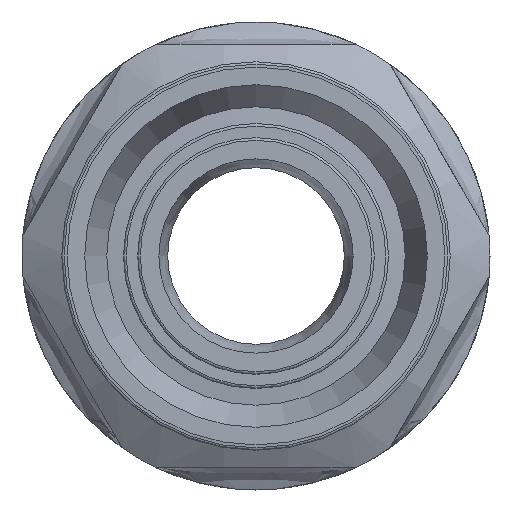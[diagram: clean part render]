
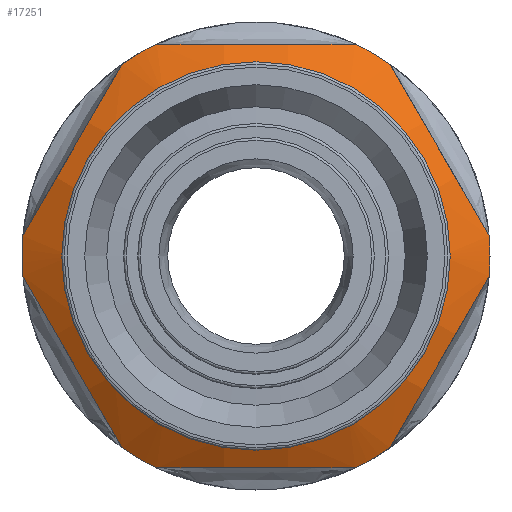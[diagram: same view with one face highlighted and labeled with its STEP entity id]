
A CAD part, left-side view. The second image highlights one B-rep face of the part: STEP entity #17251.
In plain terms, the highlighted conical face has half-angle 59.826 degrees and reference radius 10.5 mm.
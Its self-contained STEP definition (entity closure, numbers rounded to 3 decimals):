
#38=(
BOUNDED_CURVE()
B_SPLINE_CURVE(2,(#24801,#24802,#24803),.UNSPECIFIED.,.F.,.F.)
B_SPLINE_CURVE_WITH_KNOTS((3,3),(0.,1.133),.UNSPECIFIED.)
CURVE()
GEOMETRIC_REPRESENTATION_ITEM()
RATIONAL_B_SPLINE_CURVE((1.,1.104,1.))
REPRESENTATION_ITEM('')
);
#39=(
BOUNDED_CURVE()
B_SPLINE_CURVE(2,(#26408,#26409,#26410),.UNSPECIFIED.,.F.,.F.)
B_SPLINE_CURVE_WITH_KNOTS((3,3),(0.,1.133),.UNSPECIFIED.)
CURVE()
GEOMETRIC_REPRESENTATION_ITEM()
RATIONAL_B_SPLINE_CURVE((1.,1.104,1.))
REPRESENTATION_ITEM('')
);
#40=(
BOUNDED_CURVE()
B_SPLINE_CURVE(2,(#26678,#26679,#26680),.UNSPECIFIED.,.F.,.F.)
B_SPLINE_CURVE_WITH_KNOTS((3,3),(0.,1.133),.UNSPECIFIED.)
CURVE()
GEOMETRIC_REPRESENTATION_ITEM()
RATIONAL_B_SPLINE_CURVE((1.,1.104,1.))
REPRESENTATION_ITEM('')
);
#41=(
BOUNDED_CURVE()
B_SPLINE_CURVE(2,(#26823,#26824,#26825),.UNSPECIFIED.,.F.,.F.)
B_SPLINE_CURVE_WITH_KNOTS((3,3),(0.,1.133),.UNSPECIFIED.)
CURVE()
GEOMETRIC_REPRESENTATION_ITEM()
RATIONAL_B_SPLINE_CURVE((1.,1.104,1.))
REPRESENTATION_ITEM('')
);
#42=(
BOUNDED_CURVE()
B_SPLINE_CURVE(2,(#26968,#26969,#26970),.UNSPECIFIED.,.F.,.F.)
B_SPLINE_CURVE_WITH_KNOTS((3,3),(0.,1.133),.UNSPECIFIED.)
CURVE()
GEOMETRIC_REPRESENTATION_ITEM()
RATIONAL_B_SPLINE_CURVE((1.,1.104,1.))
REPRESENTATION_ITEM('')
);
#43=(
BOUNDED_CURVE()
B_SPLINE_CURVE(2,(#27113,#27114,#27115),.UNSPECIFIED.,.F.,.F.)
B_SPLINE_CURVE_WITH_KNOTS((3,3),(0.,1.133),.UNSPECIFIED.)
CURVE()
GEOMETRIC_REPRESENTATION_ITEM()
RATIONAL_B_SPLINE_CURVE((1.,1.104,1.))
REPRESENTATION_ITEM('')
);
#993=CIRCLE('',#18191,13.25);
#994=CIRCLE('',#18192,13.25);
#995=CIRCLE('',#18193,7.75);
#996=CIRCLE('',#18194,7.75);
#997=CIRCLE('',#18195,13.25);
#998=CIRCLE('',#18196,13.25);
#999=CIRCLE('',#18197,13.25);
#1000=CIRCLE('',#18198,13.25);
#1001=CIRCLE('',#18199,13.25);
#1366=CONICAL_SURFACE('',#18190,10.5,1.044);
#1684=FACE_OUTER_BOUND('',#2679,.T.);
#2679=EDGE_LOOP('',(#13174,#13175,#13176,#13177,#13178,#13179,#13180,#13181,
#13182,#13183,#13184,#13185,#13186,#13187,#13188,#13189,#13190));
#4910=LINE('',#27122,#6341);
#6341=VECTOR('',#20080,10.5);
#7360=VERTEX_POINT('',#24798);
#7361=VERTEX_POINT('',#24800);
#7633=VERTEX_POINT('',#26405);
#7634=VERTEX_POINT('',#26407);
#7641=VERTEX_POINT('',#26675);
#7642=VERTEX_POINT('',#26677);
#7647=VERTEX_POINT('',#26820);
#7648=VERTEX_POINT('',#26822);
#7653=VERTEX_POINT('',#26965);
#7654=VERTEX_POINT('',#26967);
#7659=VERTEX_POINT('',#27110);
#7660=VERTEX_POINT('',#27112);
#7661=VERTEX_POINT('',#27119);
#7662=VERTEX_POINT('',#27121);
#7663=VERTEX_POINT('',#27123);
#9279=EDGE_CURVE('',#7361,#7360,#38,.T.);
#9686=EDGE_CURVE('',#7634,#7633,#39,.T.);
#9696=EDGE_CURVE('',#7642,#7641,#40,.T.);
#9703=EDGE_CURVE('',#7648,#7647,#41,.T.);
#9710=EDGE_CURVE('',#7654,#7653,#42,.T.);
#9717=EDGE_CURVE('',#7660,#7659,#43,.T.);
#9719=EDGE_CURVE('',#7642,#7647,#993,.T.);
#9720=EDGE_CURVE('',#7661,#7641,#994,.T.);
#9721=EDGE_CURVE('',#7661,#7662,#4910,.T.);
#9722=EDGE_CURVE('',#7662,#7663,#995,.T.);
#9723=EDGE_CURVE('',#7663,#7662,#996,.T.);
#9724=EDGE_CURVE('',#7361,#7661,#997,.T.);
#9725=EDGE_CURVE('',#7634,#7360,#998,.T.);
#9726=EDGE_CURVE('',#7660,#7633,#999,.T.);
#9727=EDGE_CURVE('',#7654,#7659,#1000,.T.);
#9728=EDGE_CURVE('',#7648,#7653,#1001,.T.);
#13174=ORIENTED_EDGE('',*,*,#9703,.T.);
#13175=ORIENTED_EDGE('',*,*,#9719,.F.);
#13176=ORIENTED_EDGE('',*,*,#9696,.T.);
#13177=ORIENTED_EDGE('',*,*,#9720,.F.);
#13178=ORIENTED_EDGE('',*,*,#9721,.T.);
#13179=ORIENTED_EDGE('',*,*,#9722,.T.);
#13180=ORIENTED_EDGE('',*,*,#9723,.T.);
#13181=ORIENTED_EDGE('',*,*,#9721,.F.);
#13182=ORIENTED_EDGE('',*,*,#9724,.F.);
#13183=ORIENTED_EDGE('',*,*,#9279,.T.);
#13184=ORIENTED_EDGE('',*,*,#9725,.F.);
#13185=ORIENTED_EDGE('',*,*,#9686,.T.);
#13186=ORIENTED_EDGE('',*,*,#9726,.F.);
#13187=ORIENTED_EDGE('',*,*,#9717,.T.);
#13188=ORIENTED_EDGE('',*,*,#9727,.F.);
#13189=ORIENTED_EDGE('',*,*,#9710,.T.);
#13190=ORIENTED_EDGE('',*,*,#9728,.F.);
#17251=ADVANCED_FACE('',(#1684),#1366,.T.);
#18190=AXIS2_PLACEMENT_3D('',#27117,#20074,#20075);
#18191=AXIS2_PLACEMENT_3D('',#27118,#20076,#20077);
#18192=AXIS2_PLACEMENT_3D('',#27120,#20078,#20079);
#18193=AXIS2_PLACEMENT_3D('',#27124,#20081,#20082);
#18194=AXIS2_PLACEMENT_3D('',#27125,#20083,#20084);
#18195=AXIS2_PLACEMENT_3D('',#27126,#20085,#20086);
#18196=AXIS2_PLACEMENT_3D('',#27127,#20087,#20088);
#18197=AXIS2_PLACEMENT_3D('',#27128,#20089,#20090);
#18198=AXIS2_PLACEMENT_3D('',#27129,#20091,#20092);
#18199=AXIS2_PLACEMENT_3D('',#27130,#20093,#20094);
#20074=DIRECTION('center_axis',(1.,0.,0.));
#20075=DIRECTION('ref_axis',(0.,1.,0.));
#20076=DIRECTION('center_axis',(1.,0.,0.));
#20077=DIRECTION('ref_axis',(0.,0.,-1.));
#20078=DIRECTION('center_axis',(1.,0.,0.));
#20079=DIRECTION('ref_axis',(0.,0.,-1.));
#20080=DIRECTION('',(-0.503,0.865,0.));
#20081=DIRECTION('center_axis',(1.,0.,0.));
#20082=DIRECTION('ref_axis',(0.,0.,-1.));
#20083=DIRECTION('center_axis',(1.,0.,0.));
#20084=DIRECTION('ref_axis',(0.,0.,-1.));
#20085=DIRECTION('center_axis',(1.,0.,0.));
#20086=DIRECTION('ref_axis',(0.,0.,-1.));
#20087=DIRECTION('center_axis',(1.,0.,0.));
#20088=DIRECTION('ref_axis',(0.,0.,-1.));
#20089=DIRECTION('center_axis',(1.,0.,0.));
#20090=DIRECTION('ref_axis',(0.,0.,-1.));
#20091=DIRECTION('center_axis',(1.,0.,0.));
#20092=DIRECTION('ref_axis',(0.,0.,-1.));
#20093=DIRECTION('center_axis',(1.,0.,0.));
#20094=DIRECTION('ref_axis',(0.,0.,-1.));
#24798=CARTESIAN_POINT('',(6.598,-7.583,10.865));
#24800=CARTESIAN_POINT('',(6.598,-13.201,1.135));
#24801=CARTESIAN_POINT('Ctrl Pts',(6.598,-13.201,1.135));
#24802=CARTESIAN_POINT('Ctrl Pts',(5.213,-10.392,6.));
#24803=CARTESIAN_POINT('Ctrl Pts',(6.598,-7.583,10.865));
#26405=CARTESIAN_POINT('',(6.598,5.618,12.));
#26407=CARTESIAN_POINT('',(6.598,-5.618,12.));
#26408=CARTESIAN_POINT('Ctrl Pts',(6.598,-5.618,12.));
#26409=CARTESIAN_POINT('Ctrl Pts',(5.213,0.,
12.));
#26410=CARTESIAN_POINT('Ctrl Pts',(6.598,5.618,12.));
#26675=CARTESIAN_POINT('',(6.598,-13.201,-1.135));
#26677=CARTESIAN_POINT('',(6.598,-7.583,-10.865));
#26678=CARTESIAN_POINT('Ctrl Pts',(6.598,-7.583,-10.865));
#26679=CARTESIAN_POINT('Ctrl Pts',(5.213,-10.392,-6.));
#26680=CARTESIAN_POINT('Ctrl Pts',(6.598,-13.201,-1.135));
#26820=CARTESIAN_POINT('',(6.598,-5.618,-12.));
#26822=CARTESIAN_POINT('',(6.598,5.618,-12.));
#26823=CARTESIAN_POINT('Ctrl Pts',(6.598,5.618,-12.));
#26824=CARTESIAN_POINT('Ctrl Pts',(5.213,0.,
-12.));
#26825=CARTESIAN_POINT('Ctrl Pts',(6.598,-5.618,-12.));
#26965=CARTESIAN_POINT('',(6.598,7.583,-10.865));
#26967=CARTESIAN_POINT('',(6.598,13.201,-1.135));
#26968=CARTESIAN_POINT('Ctrl Pts',(6.598,13.201,-1.135));
#26969=CARTESIAN_POINT('Ctrl Pts',(5.213,10.392,-6.));
#26970=CARTESIAN_POINT('Ctrl Pts',(6.598,7.583,-10.865));
#27110=CARTESIAN_POINT('',(6.598,13.201,1.135));
#27112=CARTESIAN_POINT('',(6.598,7.583,10.865));
#27113=CARTESIAN_POINT('Ctrl Pts',(6.598,7.583,10.865));
#27114=CARTESIAN_POINT('Ctrl Pts',(5.213,10.392,6.));
#27115=CARTESIAN_POINT('Ctrl Pts',(6.598,13.201,1.135));
#27117=CARTESIAN_POINT('Origin',(4.999,0.,
0.));
#27118=CARTESIAN_POINT('Origin',(6.598,0.,
0.));
#27119=CARTESIAN_POINT('',(6.598,-13.25,0.));
#27120=CARTESIAN_POINT('Origin',(6.598,0.,
0.));
#27121=CARTESIAN_POINT('',(3.4,-7.75,0.));
#27122=CARTESIAN_POINT('',(4.999,-10.5,0.));
#27123=CARTESIAN_POINT('',(3.4,7.75,0.));
#27124=CARTESIAN_POINT('Origin',(3.4,0.,0.));
#27125=CARTESIAN_POINT('Origin',(3.4,0.,0.));
#27126=CARTESIAN_POINT('Origin',(6.598,0.,
0.));
#27127=CARTESIAN_POINT('Origin',(6.598,0.,
0.));
#27128=CARTESIAN_POINT('Origin',(6.598,0.,
0.));
#27129=CARTESIAN_POINT('Origin',(6.598,0.,
0.));
#27130=CARTESIAN_POINT('Origin',(6.598,0.,
0.));
